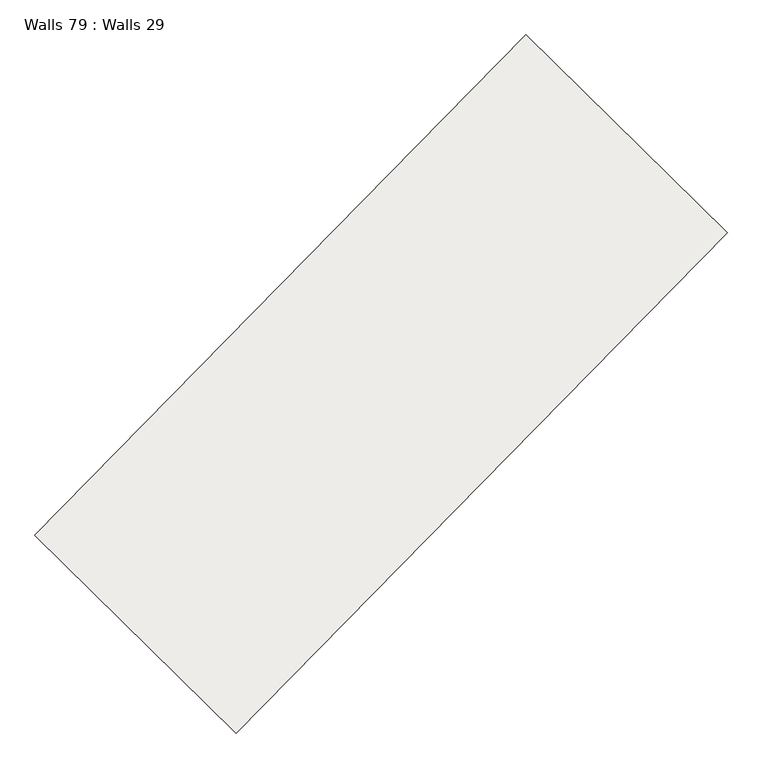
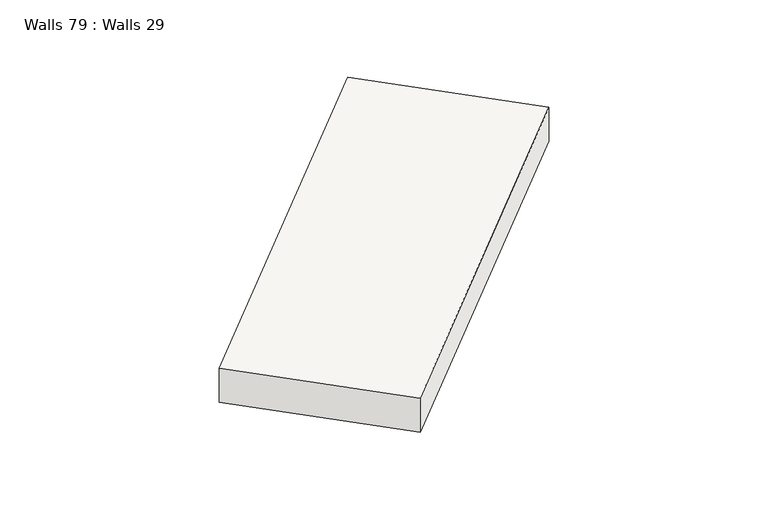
"""IFC4 building model written with IfcOpenShell, lengths in millimetres: slab geometry, Walls 79 : Walls 29."""

from ifc_helpers import new_model, si_unit, frame, origin, place, context, project, spatial, polyline, outline, extrude, source, transform, mapped, element, save


def walls_79_walls_29_aef9720e(model_context):
    return source(origin(), model_context, "Body", "SweptSolid", [
        extrude(outline(polyline([(-350.0, 0.0), (350.0, 0.0), (260.0, -8699.999999), (-440.0, -8699.999999), (-350.0, 0.0)])), frame((-207205.9159083, -370345.8044555, 635440.0), z_axis=(-0.7136987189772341, 0.7004528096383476, 0.0), x_axis=(0.0, 0.0, 1.0)), (0.0, 0.0, 1.0), 3500.0),
    ])


if __name__ == "__main__":
    model = new_model("IFC4")
    model_context = context("Model", 3, world=origin())
    ifc_project = project(units=[si_unit("LENGTHUNIT", "METRE", prefix="MILLI")], contexts=[model_context])
    site = spatial("IfcSite", under=ifc_project)
    building = spatial("IfcBuilding", under=site)
    placement = place(None, origin())
    walls_79_walls_29_shape = walls_79_walls_29_aef9720e(model_context)
    element("IfcSlab", 1, ObjectType="Walls 79 : Walls 29", at=placement, inside=building, context=model_context, shape_type="MappedRepresentation", body=[
        mapped(walls_79_walls_29_shape, transform((0.0, 0.0, 0.0), x_axis=(1.0, 0.0, 0.0), y_axis=(0.0, 1.0, 0.0), z_axis=(0.0, 0.0, 1.0))),
    ])
    save(model, "model.ifc")
